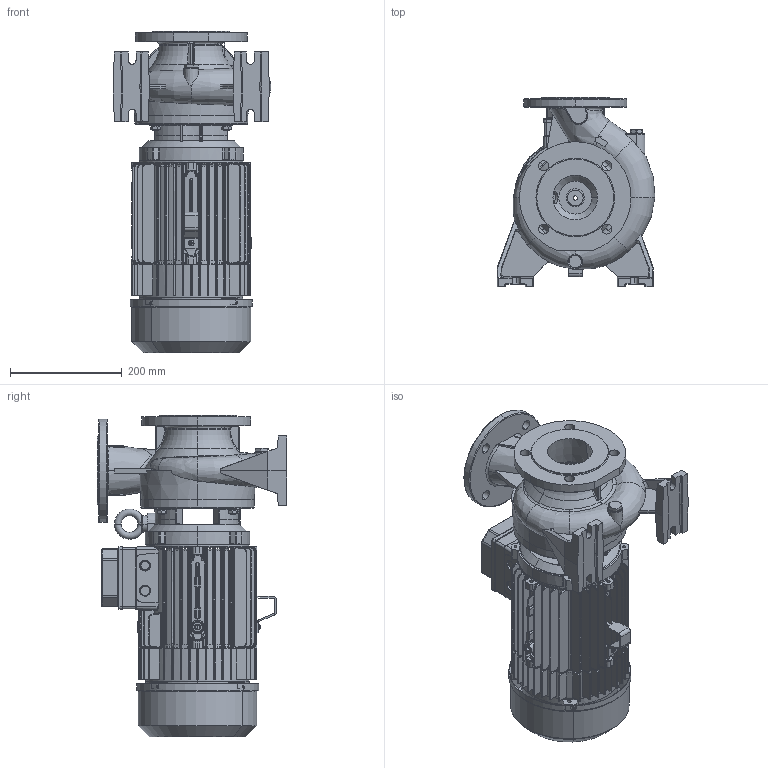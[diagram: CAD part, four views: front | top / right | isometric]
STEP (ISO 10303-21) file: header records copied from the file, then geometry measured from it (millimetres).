
FILE_DESCRIPTION (( 'STEP AP203' ), '1' );
FILE_NAME ('CN 65-125 A Special IE3.STEP', '2017-02-01T13:40:00', ( 'tecnico1' ), ( '' ), 'SwSTEP 2.0', 'SolidWorks 2016', '' );
FILE_SCHEMA (( 'CONFIG_CONTROL_DESIGN' ));
Length unit declared in the file: millimetre
Products named in the file (1): CN 65-125 A Special IE3
Bounding box: 282.72 x 340 x 577 mm (x, y, z)
Surface area: 1258513.4 mm2 (no closed solid volume)
Topology: 0 solids, 49 shells, 3043 faces, 9764 edges, 6487 vertices
Faces by surface type: plane 1304, bspline 862, cylinder 565, cone 190, torus 104, sphere 18
Entity records: 168698 total; most frequent: CARTESIAN_POINT 93076, ORIENTED_EDGE 16179, DIRECTION 13070, EDGE_CURVE 9722, VERTEX_POINT 6487, AXIS2_PLACEMENT_3D 4451, LINE 4168, VECTOR 4168
